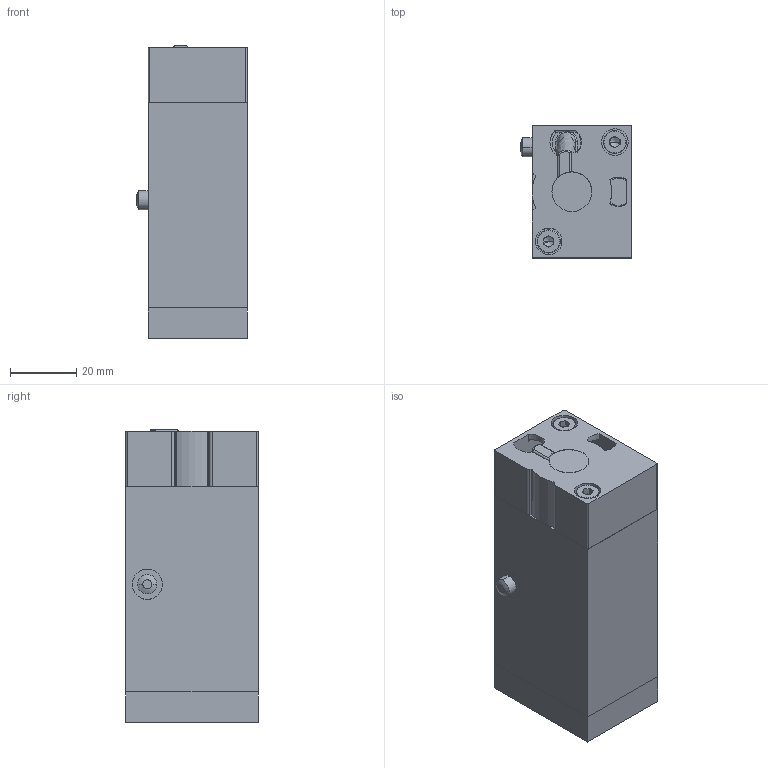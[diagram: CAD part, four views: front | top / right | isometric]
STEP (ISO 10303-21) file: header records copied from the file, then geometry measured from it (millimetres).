
FILE_DESCRIPTION (( 'STEP AP214' ), '1' );
FILE_NAME ('01_051_3.STEP', '2015-12-21T11:06:36', ( '' ), ( '' ), 'SwSTEP 2.0', 'SolidWorks 2016', '' );
FILE_SCHEMA (( 'AUTOMOTIVE_DESIGN' ));
Length unit declared in the file: millimetre
Products named in the file (1): 01_051_3
Bounding box: 33.5 x 40 x 88.4 mm (x, y, z)
Volume: 93466.6 mm3; surface area: 27845.8 mm2
Topology: 9 solids, 10 shells, 410 faces, 1010 edges, 597 vertices
Faces by surface type: cylinder 154, plane 139, bspline 51, cone 44, torus 18, sphere 4
Entity records: 14797 total; most frequent: CARTESIAN_POINT 5293, DIRECTION 1976, ORIENTED_EDGE 1936, EDGE_CURVE 968, AXIS2_PLACEMENT_3D 767, VERTEX_POINT 594, LINE 442, VECTOR 442
